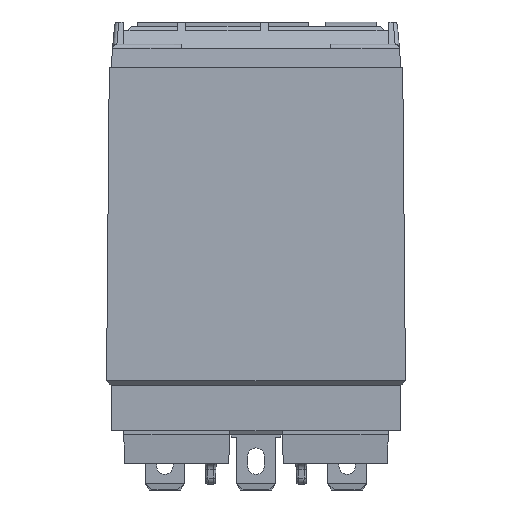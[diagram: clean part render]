
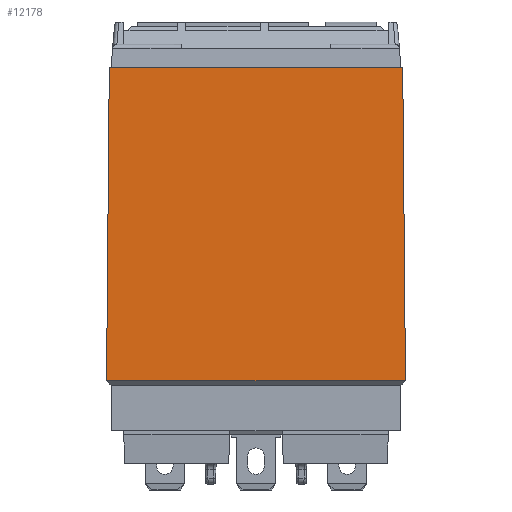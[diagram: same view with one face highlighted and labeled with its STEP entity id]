
A CAD part, front view. The second image highlights one B-rep face of the part: STEP entity #12178.
In plain terms, the highlighted planar face has unit normal (0, -1, 0.009).
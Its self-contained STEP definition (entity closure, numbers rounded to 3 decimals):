
#348 = ORIENTED_EDGE ( 'NONE', *, *, #13345, .T. ) ;
#5246 = CARTESIAN_POINT ( 'NONE',  ( 0.331, 0.331, 51.2 ) ) ;
#5419 = ORIENTED_EDGE ( 'NONE', *, *, #38520, .F. ) ;
#6268 = LINE ( 'NONE', #9752, #30761 ) ;
#8307 = EDGE_LOOP ( 'NONE', ( #31947, #348, #23848, #5419 ) ) ;
#9752 = CARTESIAN_POINT ( 'NONE',  ( 36.264, -0.05, 7.517 ) ) ;
#11493 = CARTESIAN_POINT ( 'NONE',  ( 0., 0., 13.26 ) ) ;
#12099 = FACE_OUTER_BOUND ( 'NONE', #8307, .T. ) ;
#12178 = ADVANCED_FACE ( 'NONE', ( #12099 ), #26721, .T. ) ;
#12259 = VECTOR ( 'NONE', #35742, 1000. ) ;
#12585 = DIRECTION ( 'NONE',  ( 0., -1., 0.009 ) ) ;
#13293 = CARTESIAN_POINT ( 'NONE',  ( 36.214, 0., 13.26 ) ) ;
#13345 = EDGE_CURVE ( 'NONE', #43699, #30638, #18741, .T. ) ;
#14208 = CARTESIAN_POINT ( 'NONE',  ( 35.883, 0.331, 51.2 ) ) ;
#16624 = LINE ( 'NONE', #17363, #27052 ) ;
#16938 = CARTESIAN_POINT ( 'NONE',  ( -0.053, -0.053, 7.2 ) ) ;
#17363 = CARTESIAN_POINT ( 'NONE',  ( -0.053, 0.331, 51.2 ) ) ;
#18243 = DIRECTION ( 'NONE',  ( 1., 0., 0. ) ) ;
#18741 = LINE ( 'NONE', #18989, #37221 ) ;
#18989 = CARTESIAN_POINT ( 'NONE',  ( 36.219, 0., 13.26 ) ) ;
#20647 = LINE ( 'NONE', #16938, #12259 ) ;
#21431 = DIRECTION ( 'NONE',  ( 0.009, -0.009, -1. ) ) ;
#23848 = ORIENTED_EDGE ( 'NONE', *, *, #31519, .F. ) ;
#25919 = AXIS2_PLACEMENT_3D ( 'NONE', #42580, #12585, #26974 ) ;
#26721 = PLANE ( 'NONE',  #25919 ) ;
#26974 = DIRECTION ( 'NONE',  ( 0., -0.009, -1. ) ) ;
#27052 = VECTOR ( 'NONE', #43909, 1000. ) ;
#27610 = EDGE_CURVE ( 'NONE', #38225, #43699, #20647, .T. ) ;
#29642 = VERTEX_POINT ( 'NONE', #14208 ) ;
#30638 = VERTEX_POINT ( 'NONE', #13293 ) ;
#30761 = VECTOR ( 'NONE', #21431, 1000. ) ;
#31519 = EDGE_CURVE ( 'NONE', #29642, #30638, #6268, .T. ) ;
#31947 = ORIENTED_EDGE ( 'NONE', *, *, #27610, .T. ) ;
#35742 = DIRECTION ( 'NONE',  ( -0.009, -0.009, -1. ) ) ;
#37221 = VECTOR ( 'NONE', #18243, 1000. ) ;
#38225 = VERTEX_POINT ( 'NONE', #5246 ) ;
#38520 = EDGE_CURVE ( 'NONE', #38225, #29642, #16624, .T. ) ;
#42580 = CARTESIAN_POINT ( 'NONE',  ( -0.053, -0.053, 7.2 ) ) ;
#43699 = VERTEX_POINT ( 'NONE', #11493 ) ;
#43909 = DIRECTION ( 'NONE',  ( 1., 0., 0. ) ) ;
